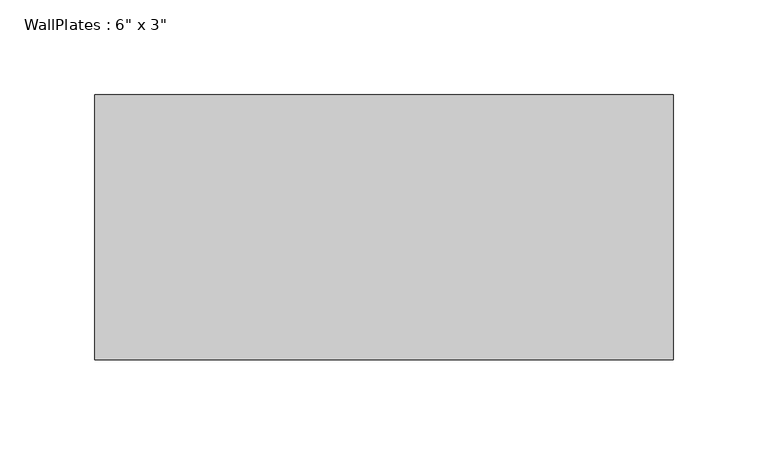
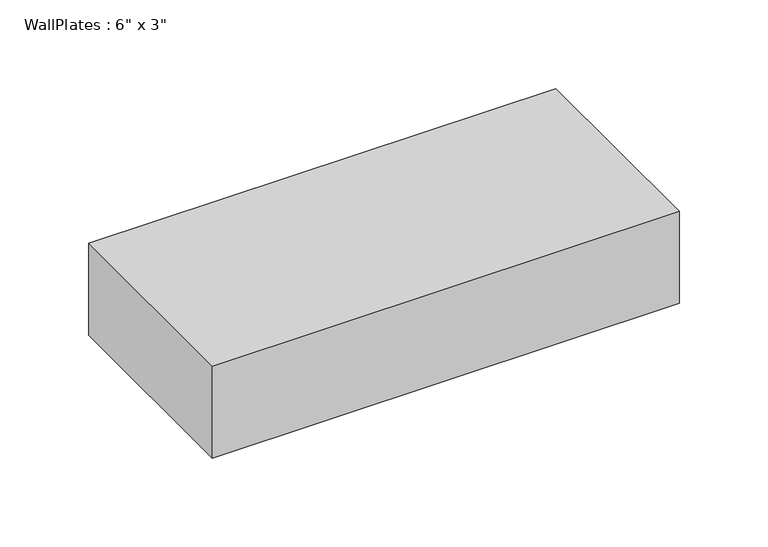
"""IFC4 building model written with IfcOpenShell, lengths in millimetres: beam geometry."""

from ifc_helpers import new_model, si_unit, frame, origin, place, context, project, spatial, polyline, outline, extrude, source, transform, mapped, element, save


def beam_9d6aa0d6(model_context):
    return source(origin(), model_context, "Body", "SweptSolid", [
        extrude(outline(polyline([(-152.4, -69.85), (-152.4, 69.85), (152.4, 69.85), (152.4, -69.85), (-152.4, -69.85)])), frame((0.0, 0.0, -31.75), z_axis=(0.0, 0.0, 1.0), x_axis=(1.0, 0.0, 0.0)), (0.0, 0.0, 1.0), 63.5),
    ])


if __name__ == "__main__":
    model = new_model("IFC4")
    model_context = context("Model", 3, world=origin())
    ifc_project = project(units=[si_unit("LENGTHUNIT", "METRE", prefix="MILLI")], contexts=[model_context])
    site = spatial("IfcSite", under=ifc_project)
    building = spatial("IfcBuilding", under=site)
    placement = place(None, origin())
    beam_shape = beam_9d6aa0d6(model_context)
    element("IfcBeam", 1, ObjectType="WallPlates : 6\" x 3\"", at=placement, inside=building, context=model_context, shape_type="MappedRepresentation", body=[
        mapped(beam_shape, transform((0.0, 0.0, 0.0), x_axis=(1.0, 0.0, 0.0), y_axis=(0.0, 1.0, 0.0), z_axis=(0.0, 0.0, 1.0))),
    ])
    save(model, "model.ifc")
